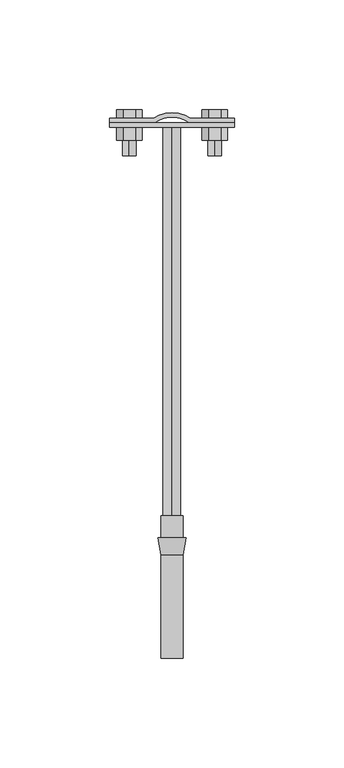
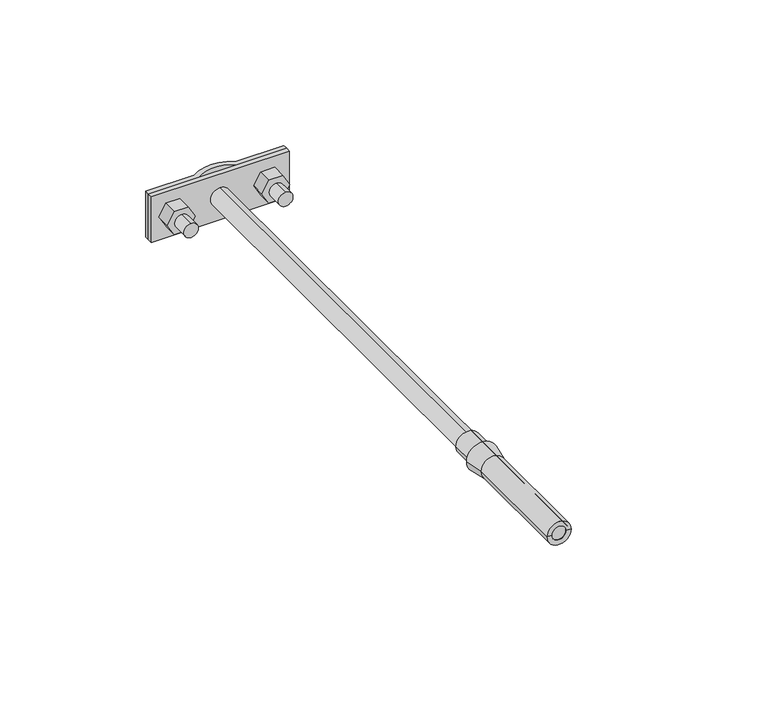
"""IFC4 building model written with IfcOpenShell, lengths in millimetres: proxy geometry, КНС_ДержательФасадный_DKC : ND2304_Горячеоцинкованная сталь_250 мм."""

import ifcopenshell
import ifcopenshell.guid

model = None  # the IFC model being written
_history = None  # IfcOwnerHistory: only IFC2X3 demands one
_inside = {}  # id of a spatial element -> (the spatial element, [elements in it])
_under = {}  # id of a project, library or spatial element -> (it, [spatial elements below it])
_declared = {}  # id of a project -> (the project, [libraries it declares])
_typed = {}  # id of a type object -> (the type object, [elements of that type])
_made_of = {}  # id of a material, layer set ... -> (it, [elements and type objects made of it])


def new_model(schema):
    """Start an empty IFC model of exactly this schema.

    Asked for "IFC4X3", IfcOpenShell would pick the latest addendum, in which some entities
    have other attributes; the version numbers below select the first issue.
    IFC2X3 requires an IfcOwnerHistory on every rooted entity: one is made here for all.
    """
    global model, _history
    if schema == "IFC4X3":
        model = ifcopenshell.file(schema_version=(4, 3, 0, 0))
    else:
        model = ifcopenshell.file(schema=schema)
    _inside.clear()
    _under.clear()
    _declared.clear()
    _typed.clear()
    _made_of.clear()
    _history = None
    if model.schema == "IFC2X3":
        org = make("IfcOrganization", Name="unknown")
        user = make(
            "IfcPersonAndOrganization",
            ThePerson=make("IfcPerson", FamilyName="unknown"),
            TheOrganization=org,
        )
        app = make(
            "IfcApplication",
            ApplicationDeveloper=org,
            Version="unknown",
            ApplicationFullName="unknown",
            ApplicationIdentifier="unknown",
        )
        _history = make(
            "IfcOwnerHistory",
            OwningUser=user,
            OwningApplication=app,
            ChangeAction="ADDED",
            CreationDate=0,
        )
    return model


def make(cls, **values):
    """One entity of the class cls with the attributes given. An attribute that is None is left unset."""
    return model.create_entity(
        cls, **{name: value for name, value in values.items() if value is not None}
    )


def rooted(cls, **values):
    """An entity with a GlobalId (a new one), such as an element, a storey or a relation."""
    return make(cls, GlobalId=ifcopenshell.guid.new(), OwnerHistory=_history, **values)


def si_unit(unit_type, name, prefix=None):
    """IfcSIUnit, for example si_unit("LENGTHUNIT", "METRE", prefix="MILLI")."""
    return make("IfcSIUnit", UnitType=unit_type, Prefix=prefix, Name=name)


def assignment(units):
    """IfcUnitAssignment: the units of a project."""
    return None if units is None else make("IfcUnitAssignment", Units=units)


def point(xyz):
    """IfcCartesianPoint."""
    return None if xyz is None else make("IfcCartesianPoint", Coordinates=xyz)


def direction(xyz):
    """IfcDirection."""
    return None if xyz is None else make("IfcDirection", DirectionRatios=xyz)


def frame(location, z_axis=None, x_axis=None):
    """IfcAxis2Placement3D, a coordinate frame: its origin and axes. An axis left out is left unset."""
    return make(
        "IfcAxis2Placement3D",
        Location=point(location),
        Axis=direction(z_axis),
        RefDirection=direction(x_axis),
    )


def frame_2d(location, x_axis=None):
    """IfcAxis2Placement2D, a coordinate frame in the plane: its origin and x axis."""
    return make(
        "IfcAxis2Placement2D", Location=point(location), RefDirection=direction(x_axis)
    )


def origin():
    """The frame at (0, 0, 0) with its axes left unset."""
    return frame((0.0, 0.0, 0.0))


def origin_2d():
    """The frame at (0, 0) in the plane with its x axis left unset."""
    return frame_2d((0.0, 0.0))


def place(relative_to, where):
    """IfcLocalPlacement: puts the frame where relative to a parent placement (None: the world)."""
    return make(
        "IfcLocalPlacement", PlacementRelTo=relative_to, RelativePlacement=where
    )


def context(
    kind, dimensions, precision=None, world=None, true_north=None, identifier=None
):
    """IfcGeometricRepresentationContext, for example the 3D "Model" context."""
    return make(
        "IfcGeometricRepresentationContext",
        ContextIdentifier=identifier,
        ContextType=kind,
        CoordinateSpaceDimension=dimensions,
        Precision=precision,
        WorldCoordinateSystem=world,
        TrueNorth=true_north,
    )


def project(units=None, contexts=None):
    """IfcProject with its units and contexts."""
    return rooted(
        "IfcProject",
        Name="project",
        RepresentationContexts=contexts,
        UnitsInContext=assignment(units),
    )


def spatial(cls, under=None, at=None, **own):
    """A site, building, storey or space (cls), placed at a placement, below another one or the project."""
    s = rooted(cls, ObjectPlacement=at, **own)
    if under is not None:
        _under.setdefault(under.id(), (under, []))[1].append(s)
    return s


def polyline(points):
    """IfcPolyline through the points."""
    return make("IfcPolyline", Points=[point(p) for p in points])


def circle_curve(where, radius):
    """IfcCircle in the frame where."""
    return make("IfcCircle", Position=where, Radius=radius)


def trimmed(basis, trim1, trim2, sense, master):
    """IfcTrimmedCurve: the piece of a basis curve between two trims."""
    return make(
        "IfcTrimmedCurve",
        BasisCurve=basis,
        Trim1=trim1,
        Trim2=trim2,
        SenseAgreement=sense,
        MasterRepresentation=master,
    )


def segment(curve, same_sense, transition):
    """IfcCompositeCurveSegment."""
    return make(
        "IfcCompositeCurveSegment",
        Transition=transition,
        SameSense=same_sense,
        ParentCurve=curve,
    )


def composite_curve(segments, self_intersect=None):
    """IfcCompositeCurve: segments joined end to end."""
    return make("IfcCompositeCurve", Segments=segments, SelfIntersect=self_intersect)


def outline(outer, holes=None, kind="AREA"):
    """IfcArbitraryClosedProfileDef: a profile drawn as a closed curve; with holes, ...WithVoids."""
    if holes is None:
        return make("IfcArbitraryClosedProfileDef", ProfileType=kind, OuterCurve=outer)
    return make(
        "IfcArbitraryProfileDefWithVoids",
        ProfileType=kind,
        OuterCurve=outer,
        InnerCurves=holes,
    )


def extrude(swept, where, along, depth):
    """IfcExtrudedAreaSolid: the profile swept, set in the frame where, extruded along a direction by depth."""
    return make(
        "IfcExtrudedAreaSolid",
        SweptArea=swept,
        Position=where,
        ExtrudedDirection=direction(along),
        Depth=depth,
    )


def shape(context_of_items, identifier, shape_type, items):
    """IfcShapeRepresentation: the items that make up one representation, for example the "Body"."""
    return make(
        "IfcShapeRepresentation",
        ContextOfItems=context_of_items,
        RepresentationIdentifier=identifier,
        RepresentationType=shape_type,
        Items=items,
    )


def source(mapping_origin, context_of_items, identifier, shape_type, items):
    """IfcRepresentationMap: a shape defined once, which mapped items show again and again."""
    return make(
        "IfcRepresentationMap",
        MappingOrigin=mapping_origin,
        MappedRepresentation=shape(context_of_items, identifier, shape_type, items),
    )


def transform(
    local_origin,
    x_axis=None,
    y_axis=None,
    z_axis=None,
    scale=None,
    scale2=None,
    scale3=None,
    uniform=True,
):
    """IfcCartesianTransformationOperator3D, or its non-uniform kind. x_axis, y_axis, z_axis: its Axis1, 2, 3."""
    if uniform:
        return make(
            "IfcCartesianTransformationOperator3D",
            Axis1=direction(x_axis),
            Axis2=direction(y_axis),
            LocalOrigin=point(local_origin),
            Scale=scale,
            Axis3=direction(z_axis),
        )
    return make(
        "IfcCartesianTransformationOperator3DnonUniform",
        Axis1=direction(x_axis),
        Axis2=direction(y_axis),
        LocalOrigin=point(local_origin),
        Scale=scale,
        Axis3=direction(z_axis),
        Scale2=scale2,
        Scale3=scale3,
    )


def mapped(mapping_source, mapping_target):
    """IfcMappedItem: shows the shape of a source again, moved by a transform."""
    return make(
        "IfcMappedItem", MappingSource=mapping_source, MappingTarget=mapping_target
    )


def made_of(thing, what):
    """Note that an element or type object is made of a material, layer set ...; save() writes the relation."""
    if what is not None:
        _made_of.setdefault(what.id(), (what, []))[1].append(thing)
    return thing


def element(
    cls,
    number,
    at=None,
    inside=None,
    cuts=None,
    type_object=None,
    material=None,
    context=None,
    identifier="Body",
    shape_type=None,
    held_by="IfcProductDefinitionShape",
    body=None,
    shapes=None,
    **own,
):
    """One element of the class cls, such as IfcWall. Its Tag is "e" and its number.

    at: its placement. inside: the storey or other place that contains it. cuts: it is an
    opening in that element (IfcRelVoidsElement). A single representation is given by context,
    identifier, shape_type and body (its items); several are given by shapes. held_by: the class
    of the entity that holds the representations. save() writes the other relations.
    """
    e = rooted(cls, Tag="e%d" % number, ObjectPlacement=at, **own)
    if body is not None:
        shapes = [shape(context, identifier, shape_type, body)]
    if shapes is not None:
        e.Representation = make(held_by, Representations=shapes)
    if inside is not None:
        _inside.setdefault(inside.id(), (inside, []))[1].append(e)
    if cuts is not None:
        rooted(
            "IfcRelVoidsElement", RelatingBuildingElement=cuts, RelatedOpeningElement=e
        )
    if type_object is not None:
        _typed.setdefault(type_object.id(), (type_object, []))[1].append(e)
    return made_of(e, material)


def aggregate(whole, parts):
    """IfcRelAggregates: a whole, such as a stair, and the parts it consists of."""
    return rooted("IfcRelAggregates", RelatingObject=whole, RelatedObjects=parts)


def save(model, path):
    """Write the relations noted so far, then the file.

    IfcRelAggregates (storeys below a building ...), IfcRelContainedInSpatialStructure (elements
    in a storey), IfcRelDefinesByType, IfcRelAssociatesMaterial and IfcRelDeclares: one each for
    every whole, place, type object, material and project.
    """
    for whole, parts in _under.values():
        aggregate(whole, parts)
    for where, things in _inside.values():
        rooted(
            "IfcRelContainedInSpatialStructure",
            RelatedElements=things,
            RelatingStructure=where,
        )
    for kind, things in _typed.values():
        rooted("IfcRelDefinesByType", RelatedObjects=things, RelatingType=kind)
    for what, things in _made_of.values():
        rooted("IfcRelAssociatesMaterial", RelatedObjects=things, RelatingMaterial=what)
    for by, libraries in _declared.values():
        rooted("IfcRelDeclares", RelatingContext=by, RelatedDefinitions=libraries)
    model.write(path)


def plane_surface(at):
    """IfcPlane: the flat surface through the origin of the frame at, square to its z axis."""
    return make("IfcPlane", Position=at)


def cylinder_surface(at, radius):
    """IfcCylindricalSurface: all points at the distance radius from the z axis of the frame at."""
    return make("IfcCylindricalSurface", Position=at, Radius=radius)


def revolved_surface(curve, axis_point, axis_direction):
    """IfcSurfaceOfRevolution: the curve turned about the line through axis_point along axis_direction."""
    return make(
        "IfcSurfaceOfRevolution",
        SweptCurve=make("IfcArbitraryOpenProfileDef", ProfileType="CURVE", Curve=curve),
        AxisPosition=make("IfcAxis1Placement", Location=point(axis_point), Axis=direction(axis_direction)),
    )


def advanced_brep(points, edges, surfaces, faces):
    """IfcAdvancedBrep: a solid bounded by faces that lie on surfaces and meet in shared edges.

    An edge is (start, end): straight between two places in points (the first is 0);
    or (start, end, curve); or (start, end, curve, False) where it runs against its curve.
    A face is (place in surfaces, loops), or (place, loops, False) where it looks against
    its surface's normal. A loop lists edges by number (the first is 1), with a minus sign
    where the edge is run from its end to its start. The first loop is the outer one.
    """
    corners = [point(p) for p in points]
    vertices = [make("IfcVertexPoint", VertexGeometry=c) for c in corners]
    made = []
    for start, end, *more in edges:
        made.append(
            make(
                "IfcEdgeCurve",
                EdgeStart=vertices[start],
                EdgeEnd=vertices[end],
                EdgeGeometry=more[0] if more else make("IfcPolyline", Points=[corners[start], corners[end]]),
                SameSense=more[1] if len(more) > 1 else True,
            )
        )
    hull = []
    for where, loops, *sense in faces:
        bounds = []
        for j, loop in enumerate(loops):
            ring = [make("IfcOrientedEdge", EdgeElement=made[abs(k) - 1], Orientation=k > 0) for k in loop]
            bounds.append(
                make(
                    "IfcFaceOuterBound" if j == 0 else "IfcFaceBound",
                    Bound=make("IfcEdgeLoop", EdgeList=ring),
                    Orientation=True,
                )
            )
        hull.append(make("IfcAdvancedFace", Bounds=bounds, FaceSurface=surfaces[where], SameSense=sense[0] if sense else True))
    return make("IfcAdvancedBrep", Outer=make("IfcClosedShell", CfsFaces=hull))


def security_devices_d5e764b4(model_context):
    return source(origin(), model_context, "Body", "SolidModel", [
        advanced_brep(
        [(6.3810583, -10.0, 0.0), (-6.3810583, -10.0, 0.0), (-5.0, -10.0, 0.0), (5.0, -10.0, 0.0), (5.0, -17.8323707, 0.0), (-5.0, -17.8323707, 0.0), (5.0, -65.0, 0.0), (-5.0, -65.0, 0.0), (3.0, -65.0, 0.0), (-3.0, -65.0, 0.0), (3.0, 0.0, 0.0), (-3.0, 0.0, 0.0), (5.0, 0.0, 0.0), (-5.0, 0.0, 0.0)],
        [
            (0, 1, circle_curve(frame((0.0, -10.0, 0.0), z_axis=(0.0, 1.0, 0.0), x_axis=(-1.0, 0.0, 0.0)), 6.3810583)),
            (1, 2),
            (2, 3, circle_curve(frame((0.0, -10.0, 0.0), z_axis=(0.0, -1.0, 0.0), x_axis=(-1.0, 0.0, 0.0)), 5.0)),
            (3, 0),
            (1, 0, circle_curve(frame((0.0, -10.0, 0.0), z_axis=(0.0, 1.0, 0.0), x_axis=(-1.0, 0.0, 0.0)), 6.3810583)),
            (3, 2, circle_curve(frame((0.0, -10.0, 0.0), z_axis=(0.0, -1.0, 0.0), x_axis=(-1.0, 0.0, 0.0)), 5.0)),
            (4, 5, circle_curve(frame((0.0, -17.8323707, 0.0), z_axis=(0.0, 1.0, 0.0), x_axis=(-1.0, 0.0, 0.0)), 5.0)),
            (5, 1),
            (0, 4),
            (5, 4, circle_curve(frame((0.0, -17.8323707, 0.0), z_axis=(0.0, 1.0, 0.0), x_axis=(-1.0, 0.0, 0.0)), 5.0)),
            (6, 7, circle_curve(frame((0.0, -65.0, 0.0), z_axis=(0.0, 1.0, 0.0), x_axis=(-1.0, 0.0, 0.0)), 5.0)),
            (7, 5),
            (4, 6),
            (7, 6, circle_curve(frame((0.0, -65.0, 0.0), z_axis=(0.0, 1.0, 0.0), x_axis=(-1.0, 0.0, 0.0)), 5.0)),
            (8, 9, circle_curve(frame((0.0, -65.0, 0.0), z_axis=(0.0, 1.0, 0.0), x_axis=(-1.0, 0.0, 0.0)), 3.0)),
            (9, 7),
            (6, 8),
            (9, 8, circle_curve(frame((0.0, -65.0, 0.0), z_axis=(0.0, 1.0, 0.0), x_axis=(-1.0, 0.0, 0.0)), 3.0)),
            (10, 11, circle_curve(frame((0.0, 0.0, 0.0), z_axis=(0.0, 1.0, 0.0), x_axis=(-1.0, 0.0, 0.0)), 3.0)),
            (11, 9),
            (8, 10),
            (11, 10, circle_curve(frame((0.0, 0.0, 0.0), z_axis=(0.0, 1.0, 0.0), x_axis=(-1.0, 0.0, 0.0)), 3.0)),
            (12, 13, circle_curve(frame((0.0, 0.0, 0.0), z_axis=(0.0, 1.0, 0.0), x_axis=(-1.0, 0.0, 0.0)), 5.0)),
            (13, 11),
            (10, 12),
            (13, 12, circle_curve(frame((0.0, 0.0, 0.0), z_axis=(0.0, 1.0, 0.0), x_axis=(-1.0, 0.0, 0.0)), 5.0)),
            (2, 13),
            (12, 3),
        ],
        [
            plane_surface(frame((0.0, -10.0, 0.0), z_axis=(0.0, 1.0, 0.0), x_axis=(-1.0, 0.0, 0.0))),
            revolved_surface(polyline([(-6.3810583, -10.0, 0.0), (-5.0, -17.8323707, 0.0)]), (0.0, 2000.0, 0.0), (0.0, -1.0, 0.0)),
            cylinder_surface(frame((0.0, 2000.0, 0.0), z_axis=(0.0, -1.0, 0.0), x_axis=(-1.0, 0.0, 0.0)), 5.0),
            plane_surface(frame((0.0, -65.0, 0.0), z_axis=(0.0, -1.0, 0.0), x_axis=(-1.0, 0.0, 0.0))),
            revolved_surface(polyline([(-3.0, -65.0, 0.0), (-3.0, 0.0, 0.0)]), (0.0, 2000.0, 0.0), (0.0, -1.0, 0.0)),
            plane_surface(frame((0.0, 0.0, 0.0), z_axis=(0.0, 1.0, 0.0), x_axis=(-1.0, 0.0, 0.0))),
        ],
        [
            (0, [[1, 2, 3, 4]]),
            (0, [[5, -4, 6, -2]]),
            (1, [[7, 8, -1, 9]]),
            (1, [[10, -9, -5, -8]]),
            (2, [[11, 12, -7, 13]]),
            (2, [[14, -13, -10, -12]]),
            (3, [[15, 16, -11, 17]]),
            (3, [[18, -17, -14, -16]]),
            (4, [[19, 20, -15, 21]]),
            (4, [[22, -21, -18, -20]]),
            (5, [[23, 24, -19, 25]]),
            (5, [[26, -25, -22, -24]]),
            (2, [[-3, 27, -23, 28]]),
            (2, [[-6, -28, -26, -27]]),
        ],
    ),
        extrude(outline(polyline([(0.0, 25.2735027), (5.0, 22.3867513), (5.0, 16.6132487), (0.0, 13.7264973), (-5.0, 16.6132487), (-5.0, 22.3867513), (0.0, 25.2735027)])), frame((0.0, 171.0, 0.0), z_axis=(0.0, 1.0, 0.0), x_axis=(0.0, 0.0, 1.0)), (0.0, 0.0, 1.0), 6.0),
        extrude(outline(polyline([(0.0, -13.7264973), (5.0, -16.6132487), (5.0, -22.3867513), (0.0, -25.2735027), (-5.0, -22.3867513), (-5.0, -16.6132487), (0.0, -13.7264973)])), frame((0.0, 171.0, 0.0), z_axis=(0.0, 1.0, 0.0), x_axis=(0.0, 0.0, 1.0)), (0.0, 0.0, 1.0), 6.0),
        extrude(outline(composite_curve([segment(trimmed(circle_curve(frame_2d((0.0, 19.5)), 3.0), [point((-3.0, 19.5))], [point((3.0, 19.5))], False, "CARTESIAN"), True, "CONTINUOUS"), segment(trimmed(circle_curve(frame_2d((0.0, 19.5)), 3.0), [point((3.0, 19.5))], [point((-3.0, 19.5))], False, "CARTESIAN"), True, "CONTINUOUS")], self_intersect=False)), frame((0.0, 164.0, 0.0), z_axis=(0.0, 1.0, 0.0), x_axis=(0.0, 0.0, 1.0)), (0.0, 0.0, 1.0), 13.0),
        extrude(outline(polyline([(0.0, 25.2735027), (5.0, 22.3867513), (5.0, 16.6132487), (0.0, 13.7264973), (-5.0, 16.6132487), (-5.0, 22.3867513), (0.0, 25.2735027)])), frame((0.0, 181.0, 0.0), z_axis=(0.0, 1.0, 0.0), x_axis=(0.0, 0.0, 1.0)), (0.0, 0.0, 1.0), 4.0),
        extrude(outline(polyline([(0.0, -13.7264973), (5.0, -16.6132487), (5.0, -22.3867513), (0.0, -25.2735027), (-5.0, -22.3867513), (-5.0, -16.6132487), (0.0, -13.7264973)])), frame((0.0, 181.0, 0.0), z_axis=(0.0, 1.0, 0.0), x_axis=(0.0, 0.0, 1.0)), (0.0, 0.0, 1.0), 4.0),
        extrude(outline(composite_curve([segment(trimmed(circle_curve(frame_2d((0.0, -19.5)), 3.0), [point((-3.0, -19.5))], [point((3.0, -19.5))], False, "CARTESIAN"), True, "CONTINUOUS"), segment(trimmed(circle_curve(frame_2d((0.0, -19.5)), 3.0), [point((3.0, -19.5))], [point((-3.0, -19.5))], False, "CARTESIAN"), True, "CONTINUOUS")], self_intersect=False)), frame((0.0, 164.0, 0.0), z_axis=(0.0, 1.0, 0.0), x_axis=(0.0, 0.0, 1.0)), (0.0, 0.0, 1.0), 13.0),
        extrude(outline(composite_curve([segment(trimmed(circle_curve(origin_2d(), 4.0), [point((-4.0, 0.0))], [point((4.0, 0.0))], False, "CARTESIAN"), True, "CONTINUOUS"), segment(trimmed(circle_curve(origin_2d(), 4.0), [point((4.0, 0.0))], [point((-4.0, 0.0))], False, "CARTESIAN"), True, "CONTINUOUS")], self_intersect=False)), frame((0.0, -65.0, 0.0), z_axis=(0.0, 1.0, 0.0), x_axis=(0.0, 0.0, 1.0)), (0.0, 0.0, 1.0), 242.0),
        extrude(outline(polyline([(-28.5, 177.0), (-28.5, 179.0), (28.5, 179.0), (28.5, 177.0), (-28.5, 177.0)])), frame((0.0, 0.0, -10.0), z_axis=(0.0, 0.0, 1.0), x_axis=(1.0, 0.0, 0.0)), (0.0, 0.0, 1.0), 20.0),
        extrude(outline(composite_curve([segment(trimmed(circle_curve(frame_2d((0.0, 168.8700945)), 14.8116376), [point((-8.5, 181.0))], [point((8.5, 181.0))], False, "CARTESIAN"), True, "CONTINUOUS"), segment(polyline([(8.5, 181.0), (28.5, 181.0), (28.5, 179.0), (7.9035116, 179.0)]), True, "CONTINUOUS"), segment(trimmed(circle_curve(frame_2d((0.0, 168.3768959)), 13.2406887), [point((7.9035116, 179.0))], [point((-7.9035116, 179.0))], True, "CARTESIAN"), True, "CONTINUOUS"), segment(polyline([(-7.9035116, 179.0), (-28.5, 179.0), (-28.5, 181.0), (-8.5, 181.0)]), True, "CONTINUOUS")], self_intersect=False)), frame((0.0, 0.0, -10.0), z_axis=(0.0, 0.0, 1.0), x_axis=(1.0, 0.0, 0.0)), (0.0, 0.0, 1.0), 20.0),
    ])


if __name__ == "__main__":
    model = new_model("IFC4")
    model_context = context("Model", 3, world=origin())
    ifc_project = project(units=[si_unit("LENGTHUNIT", "METRE", prefix="MILLI")], contexts=[model_context])
    site = spatial("IfcSite", under=ifc_project)
    building = spatial("IfcBuilding", under=site)
    placement = place(None, origin())
    security_devices_shape = security_devices_d5e764b4(model_context)
    element("IfcBuildingElementProxy", 1, Name="КНС_ДержательФасадный_DKC : ND2304_Горячеоцинкованная сталь_250 мм", ObjectType="КНС_ДержательФасадный_DKC : ND2304_Горячеоцинкованная сталь_250 мм", at=placement, inside=building, context=model_context, shape_type="MappedRepresentation", body=[
        mapped(security_devices_shape, transform((0.0, 0.0, 0.0), x_axis=(1.0, 0.0, 0.0), y_axis=(0.0, 1.0, 0.0), z_axis=(0.0, 0.0, 1.0))),
    ])
    save(model, "model.ifc")
